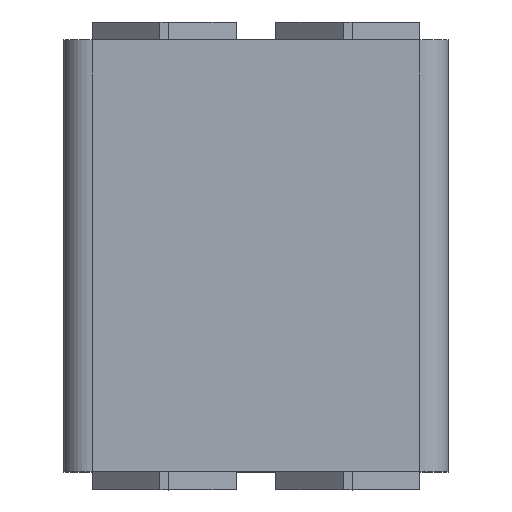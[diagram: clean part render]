
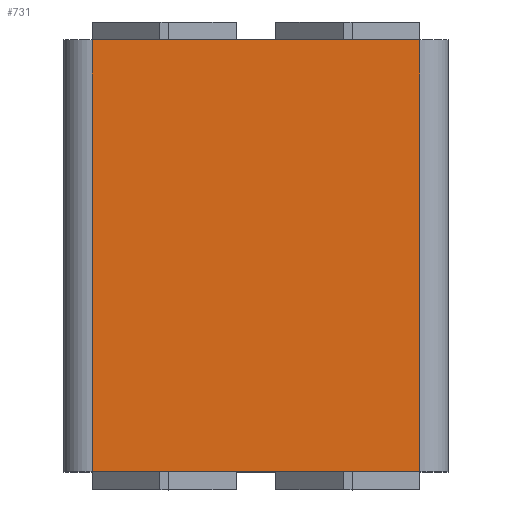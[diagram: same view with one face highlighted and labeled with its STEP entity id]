
A CAD part, top view. The second image highlights one B-rep face of the part: STEP entity #731.
In plain terms, the highlighted planar face has unit normal (0, 0, 1).
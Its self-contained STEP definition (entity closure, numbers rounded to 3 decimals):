
#673=CARTESIAN_POINT('',(22.75,60.0,14.));
#674=VERTEX_POINT('',#673);
#682=CARTESIAN_POINT('',(22.75,0.0,14.));
#683=VERTEX_POINT('',#682);
#684=CARTESIAN_POINT('',(22.75,0.0,14.));
#685=DIRECTION('',(0.0,1.0,0.0));
#686=VECTOR('',#685,60.0);
#687=LINE('',#684,#686);
#688=EDGE_CURVE('',#683,#674,#687,.T.);
#701=CARTESIAN_POINT('',(22.75,0.0,14.));
#702=DIRECTION('',(0.0,0.0,1.0));
#703=DIRECTION('',(1.0,0.0,0.0));
#704=AXIS2_PLACEMENT_3D('',#701,#702,#703);
#705=PLANE('',#704);
#706=CARTESIAN_POINT('',(-22.75,60.0,14.));
#707=VERTEX_POINT('',#706);
#708=CARTESIAN_POINT('',(22.75,60.0,14.));
#709=DIRECTION('',(-1.0,0.0,0.0));
#710=VECTOR('',#709,45.5);
#711=LINE('',#708,#710);
#712=EDGE_CURVE('',#674,#707,#711,.T.);
#713=ORIENTED_EDGE('',*,*,#712,.T.);
#714=CARTESIAN_POINT('',(-22.75,0.0,14.));
#715=VERTEX_POINT('',#714);
#716=CARTESIAN_POINT('',(-22.75,0.0,14.));
#717=DIRECTION('',(0.0,1.0,0.0));
#718=VECTOR('',#717,60.0);
#719=LINE('',#716,#718);
#720=EDGE_CURVE('',#715,#707,#719,.T.);
#721=ORIENTED_EDGE('',*,*,#720,.F.);
#722=CARTESIAN_POINT('',(-22.75,0.0,14.));
#723=DIRECTION('',(1.0,0.0,0.0));
#724=VECTOR('',#723,45.5);
#725=LINE('',#722,#724);
#726=EDGE_CURVE('',#715,#683,#725,.T.);
#727=ORIENTED_EDGE('',*,*,#726,.T.);
#728=ORIENTED_EDGE('',*,*,#688,.T.);
#729=EDGE_LOOP('',(#713,#721,#727,#728));
#730=FACE_OUTER_BOUND('',#729,.T.);
#731=ADVANCED_FACE('',(#730),#705,.T.);
